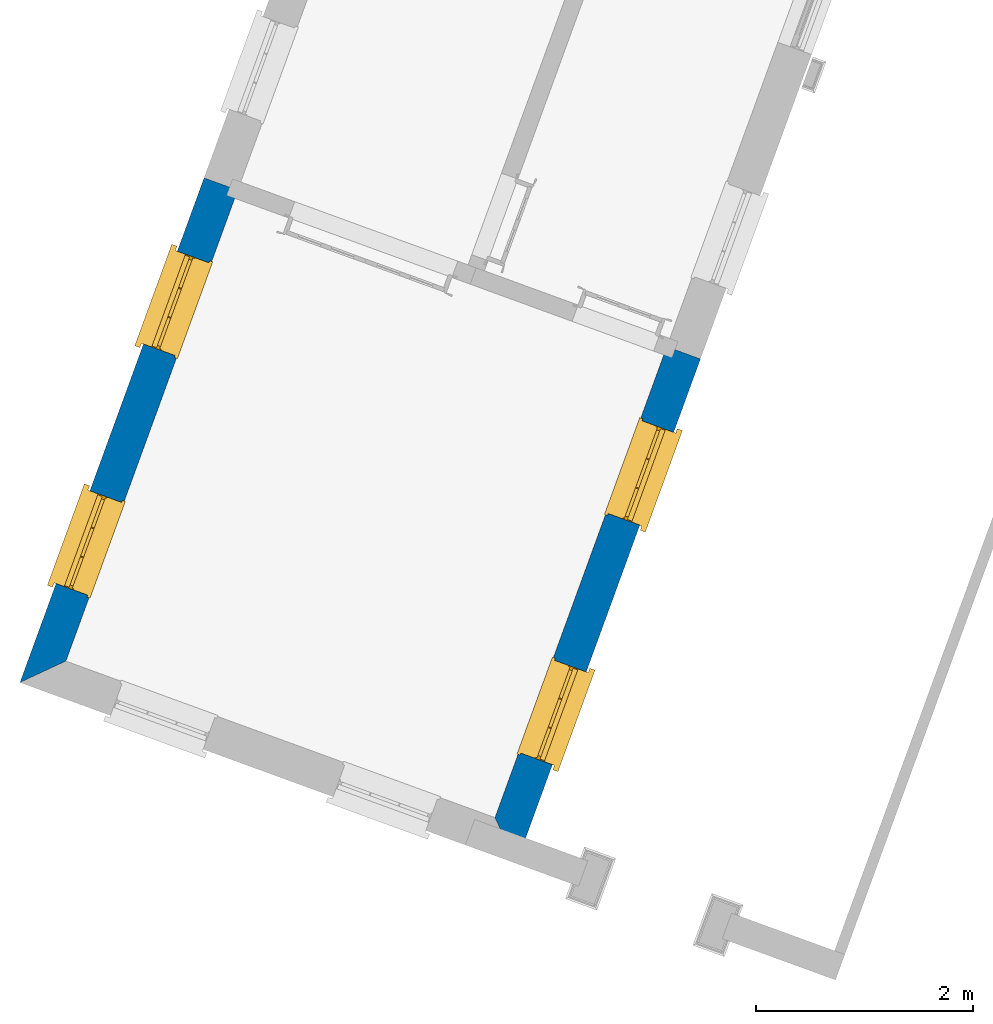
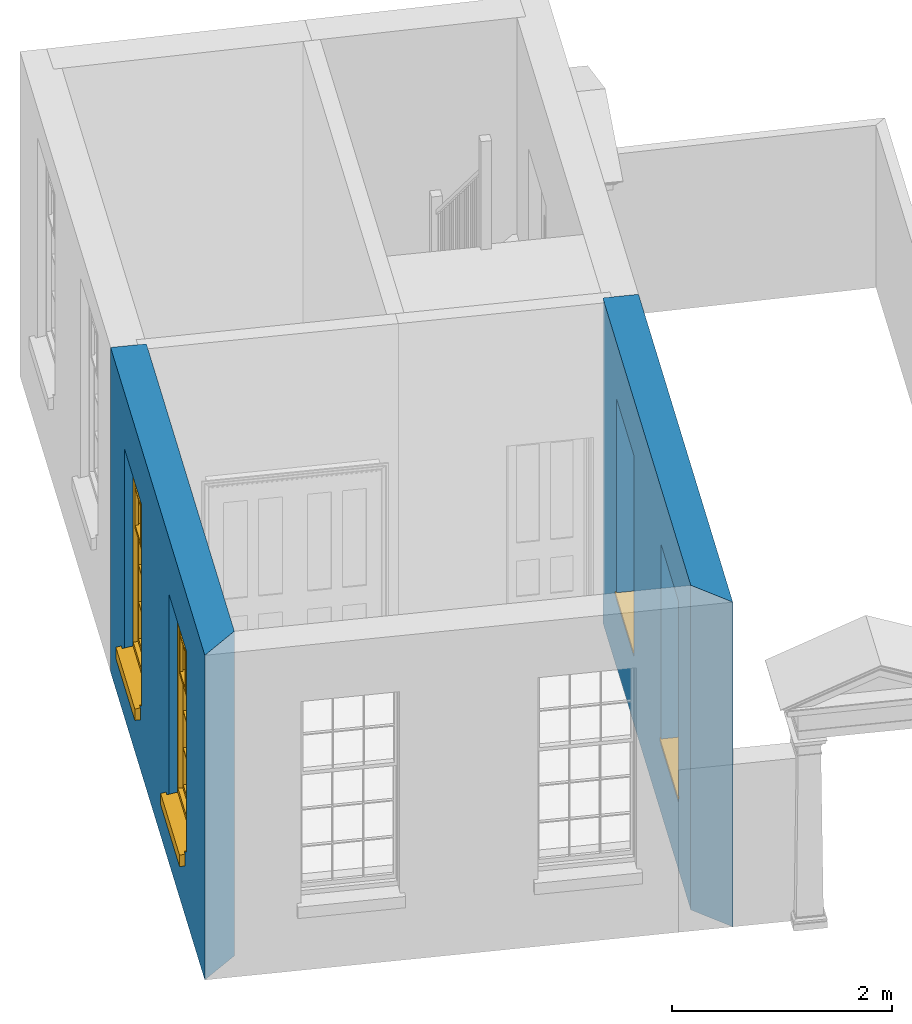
# One storey, part 3 of 6: 4 windows, 2 walls, 4 openings.
"""IFC4 building model written with IfcOpenShell, lengths in metres."""

from ifc_helpers import new_model, si_unit, frame, origin, origin_with_axes, place, context, subcontext, project, spatial, polyline, outline, extrude, faceted_brep, source, transform, mapped, material, layer, layer_set, layer_usage, type_object, type_shapes, element, fill, save


model = new_model("IFC4")

# Units and contexts
model_context = context("Model", 3, world=origin_with_axes())
body_context = subcontext(model_context, "Body", "Model", "MODEL_VIEW")
ifc_project = project(units=[si_unit("PLANEANGLEUNIT", "RADIAN"), si_unit("MASSUNIT", "GRAM", prefix="KILO"), si_unit("FORCEUNIT", "NEWTON", prefix="KILO"), si_unit("LENGTHUNIT", "METRE"), si_unit("AREAUNIT", "SQUARE_METRE"), si_unit("VOLUMEUNIT", "CUBIC_METRE")], contexts=[model_context, model_context])

# Sites, building, storey
site_1_placement = place(None, origin_with_axes())
site_1 = spatial("IfcSite", under=ifc_project, at=site_1_placement, Name="Tamar")
site_2_placement = place(site_1_placement, origin_with_axes())
site_2 = spatial("IfcSite", under=site_1, at=site_2_placement, Name="Site plot-12", CompositionType="ELEMENT")
building_placement = place(None, origin_with_axes())
building = spatial("IfcBuilding", under=site_2, at=building_placement, Name="Building plot-12", CompositionType="ELEMENT")
storey_placement = place(None, frame((0.0, 0.0, 26.0), z_axis=(0.0, 0.0, 1.0), x_axis=(1.0, 0.0, 0.0)))
storey = spatial("IfcBuildingStorey", under=building, at=storey_placement, Name="plot-12 0", CompositionType="ELEMENT", Elevation=26.0)

# Wall, openings, windows
ifc_material = material(Name="Masonry")
ifc_layer = layer(ifc_material, 0.33, ventilated=False)
ifc_layer_set = layer_set([ifc_layer], Name="exterior_0.08_0.25")
ifc_layer_usage = layer_usage(ifc_layer_set, "AXIS2", "POSITIVE", -0.25)
wall_type = type_object("IfcWallType", Name="exterior_0.08_0.25", PredefinedType="SOLIDWALL", material=ifc_layer_set)
wall_1_placement = place(storey_placement, frame((235.378161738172, 305.821389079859, 0.0), z_axis=(0.0, 0.0, 1.0), x_axis=(-0.342734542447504, -0.939432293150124, 0.0)))
wall_1 = element("IfcWall", 1, at=wall_1_placement, inside=storey, type_object=wall_type, material=ifc_layer_usage, Name="exterior", context=body_context, shape_type="SweptSolid", body=[
    extrude(outline(polyline([(1.07144995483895e-14, 0.0800000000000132), (-5.60509546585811e-14, -0.25), (4.95052738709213, -0.250000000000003), (4.62052738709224, 0.0800000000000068), (1.07144995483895e-14, 0.0800000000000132)])), origin_with_axes(), (0.0, 0.0, 1.0), 3.6),
])
opening_1_placement = place(wall_1_placement, frame((0.720131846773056, 0.0, 0.75)))
opening_1 = element("IfcOpeningElement", 2, at=opening_1_placement, cuts=wall_1, Name="My Opening", ObjectType="Opening", context=body_context, shape_type="SweptSolid", body=[
    extrude(outline(polyline([(0.0, -0.269999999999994), (0.909999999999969, -0.270000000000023), (0.909999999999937, 1.09999999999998), (-3.1863400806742e-14, 1.10000000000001), (0.0, -0.269999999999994)])), origin_with_axes(), (0.0, 0.0, 1.0), 2.23),
])
opening_2_placement = place(wall_1_placement, frame((3.07039554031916, 0.0, 0.75)))
opening_2 = element("IfcOpeningElement", 3, at=opening_2_placement, cuts=wall_1, Name="My Opening", ObjectType="Opening", context=body_context, shape_type="SweptSolid", body=[
    extrude(outline(polyline([(0.0, -0.269999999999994), (0.909999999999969, -0.270000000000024), (0.909999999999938, 1.09999999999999), (-3.10862446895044e-14, 1.10000000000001), (0.0, -0.269999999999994)])), origin_with_axes(), (0.0, 0.0, 1.0), 2.23),
])
window_type = type_object("IfcWindowType", Name="sash_big_taller", PartitioningType="DOUBLE_PANEL_HORIZONTAL", PredefinedType="NOTDEFINED")
shared_shape = source(origin(), body_context, "Body", "Brep", [
    faceted_brep([(0.033125, 0.145, 1.385209), (0.01, 0.145, 1.385209), (0.033125, 0.145, 1.786042), (0.876875, 0.145, 1.385209), (0.876875, 0.145, 1.786042), (0.9, 0.145, 1.385209), (0.876875, 0.145, 1.796042), (0.876875, 0.145, 2.196875), (0.9, 0.145, 2.22), (0.033125, 0.145, 2.196875), (0.033125, 0.145, 1.796042), (0.01, 0.145, 2.22), (0.876875, 0.115, 1.786042), (0.876875, 0.115, 1.385209), (0.9, 0.115, 1.347084), (0.033125, 0.115, 2.196875), (0.01, 0.115, 2.22), (0.033125, 0.115, 1.796042), (0.01, 0.115, 1.347084), (0.033125, 0.115, 1.385209), (0.033125, 0.115, 1.786042), (0.876875, 0.115, 2.196875), (0.876875, 0.115, 1.796042), (0.9, 0.115, 2.22), (0.033125, 0.145, 1.347084), (0.01, 0.145, 1.347084), (0.033125, 0.145, 0.94625), (0.876875, 0.145, 1.347084), (0.876875, 0.145, 0.94625), (0.9, 0.145, 1.347084), (0.876875, 0.145, 0.52625), (0.876875, 0.145, 0.125417), (0.9, 0.145, 0.077167), (0.033125, 0.145, 0.125417), (0.033125, 0.145, 0.52625), (0.01, 0.145, 0.077167), (-0.0425, 0.0, 0.01), (-0.0425, -0.05, 0.001667), (0.0, 0.0, 0.01), (0.9525, 0.0, 0.01), (0.91, 0.0, 0.01), (0.9525, -0.05, 0.001667), (-0.02, 0.33, 0.077167), (0.0, 0.33, 0.077167), (-0.02, 0.36, 0.077167), (0.0, 0.19, 0.077167), (0.01, 0.19, 0.077167), (0.91, 0.19, 0.077167), (0.91, 0.33, 0.077167), (0.9, 0.19, 0.077167), (0.93, 0.33, 0.077167), (0.93, 0.36, 0.077167), (0.01, 0.175, 1.385209), (0.9, 0.175, 1.385209), (0.876875, 0.175, 0.125417), (0.876875, 0.175, 0.52625), (0.9, 0.175, 0.077167), (0.876875, 0.175, 0.94625), (0.876875, 0.175, 1.347084), (0.033125, 0.175, 0.125417), (0.01, 0.175, 0.077167), (0.033125, 0.175, 0.52625), (0.033125, 0.175, 1.347084), (0.033125, 0.175, 0.94625), (-0.02, 0.33, 0.052167), (-0.02, 0.36, 0.052167), (0.93, 0.36, 0.052167), (0.93, 0.33, 0.052167), (0.91, 0.33, 0.052167), (0.0, 0.33, 0.052167), (0.91, 0.1, 0.026667), (0.0, 0.1, 0.026667), (-0.0425, -0.05, -0.123333), (0.9525, -0.05, -0.123333), (-0.0425, 0.0, -0.123333), (0.9525, 0.0, -0.123333), (0.01, 0.19, 2.22), (0.9, 0.19, 2.22), (0.0, 0.19, 2.23), (0.91, 0.19, 2.23), (0.01, 0.1, 0.077167), (0.9, 0.1, 0.077167), (0.592292, 0.145, 0.125417), (0.592292, 0.175, 0.125417), (0.317708, 0.175, 0.125417), (0.317708, 0.145, 0.125417), (0.592292, 0.145, 0.53625), (0.317708, 0.145, 0.53625), (0.317708, 0.145, 0.52625), (0.592292, 0.145, 0.52625), (0.592292, 0.175, 0.53625), (0.317708, 0.175, 0.53625), (0.592292, 0.115, 1.796042), (0.592292, 0.145, 1.796042), (0.317708, 0.145, 1.796042), (0.317708, 0.115, 1.796042), (0.317708, 0.115, 1.786042), (0.592292, 0.115, 1.786042), (0.317708, 0.145, 1.786042), (0.592292, 0.145, 1.786042), (0.602292, 0.115, 1.786042), (0.592292, 0.115, 1.385209), (0.602292, 0.115, 1.385209), (0.602292, 0.145, 1.385209), (0.592292, 0.145, 1.385209), (0.602292, 0.145, 1.786042), (0.876875, 0.145, 0.53625), (0.876875, 0.175, 0.53625), (0.602292, 0.175, 0.53625), (0.602292, 0.145, 0.53625), (0.317708, 0.175, 0.52625), (0.307708, 0.175, 0.125417), (0.307708, 0.175, 0.52625), (0.602292, 0.175, 0.52625), (0.602292, 0.175, 0.125417), (0.592292, 0.175, 0.52625), (0.307708, 0.175, 0.53625), (0.033125, 0.175, 0.53625), (0.317708, 0.175, 1.347084), (0.317708, 0.175, 0.94625), (0.307708, 0.175, 0.94625), (0.307708, 0.175, 1.347084), (0.602292, 0.175, 1.347084), (0.602292, 0.175, 0.94625), (0.592292, 0.175, 0.94625), (0.592292, 0.175, 1.347084), (0.307708, 0.145, 0.52625), (0.307708, 0.145, 0.125417), (0.307708, 0.145, 0.53625), (0.033125, 0.145, 0.53625), (0.307708, 0.145, 1.347084), (0.307708, 0.145, 0.94625), (0.592292, 0.145, 1.347084), (0.592292, 0.145, 0.94625), (0.317708, 0.145, 0.94625), (0.317708, 0.145, 1.347084), (0.602292, 0.145, 0.94625), (0.602292, 0.145, 1.347084), (0.602292, 0.145, 0.52625), (0.602292, 0.145, 0.125417), (0.307708, 0.115, 1.796042), (0.307708, 0.115, 1.786042), (0.307708, 0.115, 1.385209), (0.317708, 0.115, 1.385209), (0.317708, 0.115, 2.196875), (0.307708, 0.115, 2.196875), (0.602292, 0.115, 2.196875), (0.592292, 0.115, 2.196875), (0.602292, 0.115, 1.796042), (0.602292, 0.145, 1.796042), (0.307708, 0.145, 1.796042), (0.307708, 0.145, 2.196875), (0.317708, 0.145, 2.196875), (0.592292, 0.145, 2.196875), (0.602292, 0.145, 2.196875), (0.307708, 0.145, 1.786042), (0.317708, 0.145, 1.385209), (0.307708, 0.145, 1.385209), (0.876875, 0.175, 0.93625), (0.033125, 0.175, 0.93625), (0.033125, 0.145, 0.93625), (0.876875, 0.145, 0.93625), (0.91, 0.1, 2.23), (0.9, 0.1, 2.22), (0.01, 0.1, 2.22), (0.0, 0.1, 2.23), (0.91, 0.0, 0.0), (0.0, 0.0, 0.0), (0.91, 0.33, 0.0), (0.0, 0.33, 0.0), (0.317708, 0.145, 0.93625), (0.592292, 0.145, 0.93625), (0.317708, 0.175, 0.93625), (0.307708, 0.175, 0.93625), (0.602292, 0.175, 0.93625), (0.592292, 0.175, 0.93625), (0.307708, 0.145, 0.93625), (0.602292, 0.145, 0.93625)], [[[0, 1, 2]], [[3, 4, 5]], [[6, 7, 8]], [[9, 10, 11]], [[12, 13, 14]], [[15, 16, 17]], [[18, 19, 20]], [[21, 22, 23]], [[24, 25, 26]], [[27, 28, 29]], [[30, 31, 32]], [[33, 34, 35]], [[14, 27, 29]], [[25, 24, 18]], [[36, 37, 38]], [[39, 40, 41]], [[42, 43, 44]], [[45, 46, 43]], [[47, 48, 49]], [[50, 51, 48]], [[1, 0, 52]], [[5, 53, 3]], [[54, 55, 56]], [[57, 58, 53]], [[59, 60, 61]], [[62, 63, 52]], [[48, 43, 46, 49]], [[51, 44, 43, 48]], [[64, 42, 44, 65]], [[65, 44, 51, 66]], [[66, 51, 50, 67]], [[65, 66, 68, 69]], [[60, 56, 49, 46]], [[70, 71, 38, 40]], [[37, 41, 40, 38]], [[37, 72, 73, 41]], [[74, 75, 73, 72]], [[8, 11, 76, 77]], [[76, 78, 79, 77]], [[32, 35, 80, 81]], [[81, 80, 71, 70]], [[82, 83, 84, 85]], [[86, 87, 88, 89]], [[86, 90, 91, 87]], [[92, 93, 94, 95]], [[92, 95, 96, 97]], [[96, 98, 99, 97]], [[100, 97, 101, 102]], [[103, 104, 99, 105]], [[97, 99, 104, 101]], [[102, 103, 105, 100]], [[106, 107, 108, 109]], [[110, 84, 111, 112]], [[113, 114, 83, 115]], [[116, 112, 61, 117]], [[90, 115, 110, 91]], [[118, 119, 120, 121]], [[122, 123, 124, 125]], [[113, 108, 107, 55]], [[126, 112, 111, 127]], [[34, 61, 112, 126]], [[89, 115, 83, 82]], [[88, 110, 115, 89]], [[85, 84, 110, 88]], [[128, 116, 117, 129]], [[130, 121, 120, 131]], [[132, 125, 124, 133]], [[134, 119, 118, 135]], [[136, 123, 122, 137]], [[138, 113, 55, 30]], [[139, 114, 113, 138]], [[138, 30, 106, 109]], [[88, 126, 127, 85]], [[138, 89, 82, 139]], [[137, 132, 133, 136]], [[128, 129, 34, 126]], [[135, 130, 131, 134]], [[140, 17, 20, 141]], [[96, 141, 142, 143]], [[144, 145, 140, 95]], [[146, 147, 92, 148]], [[100, 12, 22, 148]], [[149, 6, 4, 105]], [[94, 150, 151, 152]], [[149, 93, 153, 154]], [[99, 98, 94, 93]], [[155, 2, 10, 150]], [[156, 157, 155, 98]], [[141, 155, 157, 142]], [[20, 2, 155, 141]], [[143, 156, 98, 96]], [[140, 150, 10, 17]], [[145, 151, 150, 140]], [[147, 153, 93, 92]], [[95, 94, 152, 144]], [[22, 6, 149, 148]], [[148, 149, 154, 146]], [[100, 105, 4, 12]], [[109, 86, 89, 138]], [[108, 113, 115, 90]], [[91, 110, 112, 116]], [[87, 128, 126, 88]], [[97, 100, 148, 92]], [[141, 96, 95, 140]], [[98, 155, 150, 94]], [[105, 99, 93, 149]], [[143, 101, 104, 156]], [[135, 118, 125, 132]], [[144, 152, 153, 147]], [[127, 111, 59, 33]], [[15, 9, 151, 145]], [[146, 154, 7, 21]], [[31, 54, 114, 139]], [[36, 74, 72, 37]], [[39, 41, 73, 75]], [[18, 14, 101, 143]], [[23, 16, 144, 147]], [[83, 56, 60, 84]], [[52, 53, 125, 118]], [[53, 52, 156, 104]], [[11, 8, 153, 152]], [[14, 18, 135, 132]], [[2, 1, 11, 10]], [[8, 5, 4, 6]], [[57, 53, 56, 158]], [[60, 52, 63, 159]], [[26, 25, 35, 160]], [[32, 29, 28, 161]], [[14, 23, 22, 12]], [[18, 20, 17, 16]], [[19, 0, 2, 20]], [[17, 10, 9, 15]], [[12, 4, 3, 13]], [[21, 7, 6, 22]], [[27, 58, 57, 28]], [[30, 55, 54, 31]], [[33, 59, 61, 34]], [[26, 63, 62, 24]], [[5, 8, 77, 53]], [[76, 11, 1, 52]], [[46, 45, 78, 76]], [[49, 77, 79, 47]], [[70, 162, 163, 81]], [[71, 80, 164, 165]], [[19, 142, 157, 0]], [[102, 13, 3, 103]], [[121, 130, 24, 62]], [[29, 32, 81, 14]], [[80, 35, 25, 18]], [[60, 46, 76, 52]], [[77, 49, 56, 53]], [[23, 14, 81, 163]], [[16, 164, 80, 18]], [[35, 85, 127]], [[127, 33, 35]], [[139, 82, 32]], [[32, 31, 139]], [[32, 82, 85, 35]], [[102, 101, 14]], [[14, 13, 102]], [[18, 143, 142]], [[142, 19, 18]], [[146, 21, 23]], [[23, 147, 146]], [[16, 15, 145]], [[145, 144, 16]], [[11, 152, 151]], [[151, 9, 11]], [[154, 153, 8]], [[8, 7, 154]], [[23, 163, 164, 16]], [[162, 165, 164, 163]], [[52, 118, 121]], [[121, 62, 52]], [[125, 53, 122]], [[58, 122, 53]], [[27, 137, 122, 58]], [[56, 83, 114]], [[114, 54, 56]], [[111, 84, 60]], [[60, 59, 111]], [[137, 27, 14]], [[14, 132, 137]], [[130, 135, 18]], [[18, 24, 130]], [[157, 156, 52]], [[52, 0, 157]], [[103, 3, 53]], [[53, 104, 103]], [[79, 78, 165, 162]], [[78, 45, 71, 165]], [[162, 70, 47, 79]], [[166, 75, 74, 167]], [[68, 66, 67]], [[48, 68, 67, 50]], [[69, 64, 65]], [[42, 64, 69, 43]], [[69, 68, 168, 169]], [[70, 68, 48, 47]], [[166, 168, 68, 70]], [[43, 69, 71, 45]], [[69, 169, 167, 71]], [[168, 166, 167, 169]], [[38, 167, 74, 36]], [[71, 167, 38]], [[39, 75, 166, 40]], [[40, 166, 70]], [[133, 134, 170, 171]], [[133, 124, 119, 134]], [[28, 57, 123, 136]], [[172, 91, 116, 173]], [[174, 108, 90, 175]], [[120, 173, 159, 63]], [[124, 175, 172, 119]], [[174, 123, 57, 158]], [[176, 173, 116, 128]], [[160, 159, 173, 176]], [[171, 175, 90, 86]], [[170, 172, 175, 171]], [[87, 91, 172, 170]], [[131, 120, 63, 26]], [[177, 174, 158, 161]], [[109, 108, 174, 177]], [[177, 161, 28, 136]], [[170, 176, 128, 87]], [[177, 171, 86, 109]], [[131, 26, 160, 176]], [[136, 133, 171, 177]], [[123, 174, 175, 124]], [[119, 172, 173, 120]], [[134, 131, 176, 170]], [[129, 117, 159, 160]], [[161, 158, 107, 106]], [[35, 34, 129]], [[35, 129, 160]], [[32, 106, 30]], [[32, 161, 106]], [[56, 55, 107]], [[56, 107, 158]], [[60, 117, 61]], [[60, 159, 117]]]),
])
type_shapes(window_type, [shared_shape])
window_1_placement = place(storey_placement, frame((234.877700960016, 305.237412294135, 0.75), z_axis=(0.0, 0.0, 1.0), x_axis=(-0.311888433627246, -0.854883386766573, 0.0)))
window_1 = element("IfcWindow", 4, at=window_1_placement, inside=storey, type_object=window_type, Name="living street window", OverallHeight=2.23, OverallWidth=0.91, context=body_context, shape_type="MappedRepresentation", body=[
    mapped(shared_shape, transform((0.0, 0.0, 0.0), scale=1.0)),
])
fill(opening_1, window_1)
window_2_placement = place(storey_placement, frame((234.072184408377, 303.029498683, 0.75), z_axis=(0.0, 0.0, 1.0), x_axis=(-0.311888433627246, -0.854883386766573, 0.0)))
window_2 = element("IfcWindow", 5, at=window_2_placement, inside=storey, type_object=window_type, Name="living street window", OverallHeight=2.23, OverallWidth=0.91, context=body_context, shape_type="MappedRepresentation", body=[
    mapped(shared_shape, transform((0.0, 0.0, 0.0), scale=1.0)),
])
fill(opening_2, window_2)

wall_2_placement = place(storey_placement, frame((237.87153728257, 299.908144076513, 0.0), z_axis=(0.0, 0.0, 1.0), x_axis=(0.342734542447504, 0.939432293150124, 0.0)))
wall_2 = element("IfcWall", 6, at=wall_2_placement, inside=storey, type_object=wall_type, material=ifc_layer_usage, Name="exterior", context=body_context, shape_type="SweptSolid", body=[
    extrude(outline(polyline([(0.0799999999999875, 0.0800000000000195), (-0.249999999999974, -0.250000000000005), (4.70052738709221, -0.250000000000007), (4.70052738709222, 0.0800000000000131), (0.0799999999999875, 0.0800000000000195)])), origin_with_axes(), (0.0, 0.0, 1.0), 3.6),
])
opening_3_placement = place(wall_2_placement, frame((0.720131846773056, 0.0, 0.75)))
opening_3 = element("IfcOpeningElement", 7, at=opening_3_placement, cuts=wall_2, Name="My Opening", ObjectType="Opening", context=body_context, shape_type="SweptSolid", body=[
    extrude(outline(polyline([(0.0, -0.269999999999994), (0.909999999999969, -0.270000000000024), (0.909999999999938, 1.09999999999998), (-3.11972669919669e-14, 1.10000000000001), (0.0, -0.269999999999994)])), origin_with_axes(), (0.0, 0.0, 1.0), 2.23),
])
opening_4_placement = place(wall_2_placement, frame((3.07039554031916, 0.0, 0.75)))
opening_4 = element("IfcOpeningElement", 8, at=opening_4_placement, cuts=wall_2, Name="My Opening", ObjectType="Opening", context=body_context, shape_type="SweptSolid", body=[
    extrude(outline(polyline([(0.0, -0.269999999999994), (0.909999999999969, -0.270000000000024), (0.909999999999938, 1.09999999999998), (-3.10862446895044e-14, 1.10000000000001), (0.0, -0.269999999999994)])), origin_with_axes(), (0.0, 0.0, 1.0), 2.23),
])
window_3_placement = place(storey_placement, frame((238.371998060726, 300.492120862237, 0.75), z_axis=(0.0, 0.0, 1.0), x_axis=(0.311888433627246, 0.854883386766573, 0.0)))
window_3 = element("IfcWindow", 9, at=window_3_placement, inside=storey, type_object=window_type, Name="living outside window", OverallHeight=2.23, OverallWidth=0.91, context=body_context, shape_type="MappedRepresentation", body=[
    mapped(shared_shape, transform((0.0, 0.0, 0.0), scale=1.0)),
])
fill(opening_3, window_3)
window_4_placement = place(storey_placement, frame((239.177514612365, 302.700034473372, 0.75), z_axis=(0.0, 0.0, 1.0), x_axis=(0.311888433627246, 0.854883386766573, 0.0)))
window_4 = element("IfcWindow", 10, at=window_4_placement, inside=storey, type_object=window_type, Name="living outside window", OverallHeight=2.23, OverallWidth=0.91, context=body_context, shape_type="MappedRepresentation", body=[
    mapped(shared_shape, transform((0.0, 0.0, 0.0), scale=1.0)),
])
fill(opening_4, window_4)

save(model, "model.ifc")
